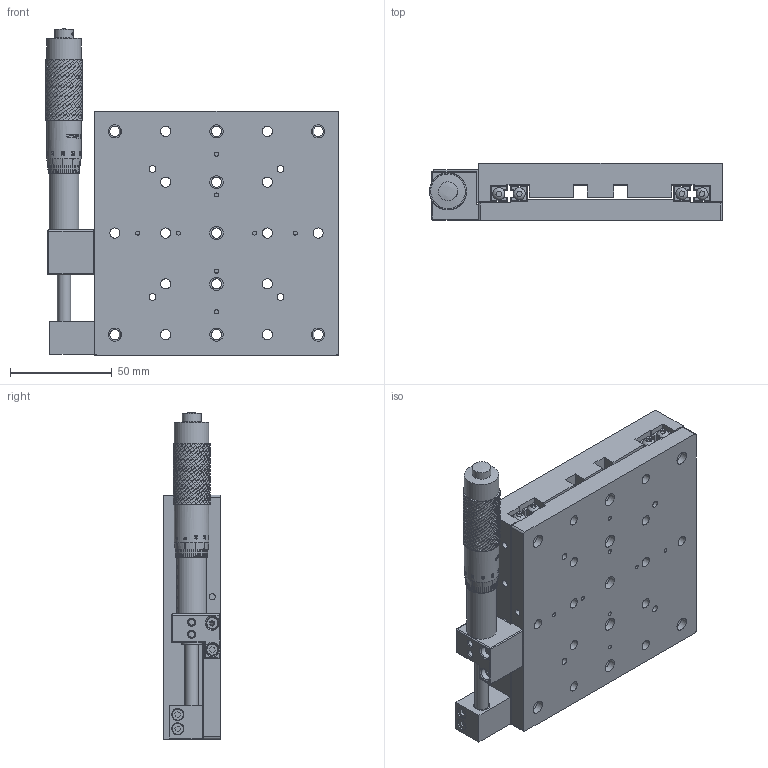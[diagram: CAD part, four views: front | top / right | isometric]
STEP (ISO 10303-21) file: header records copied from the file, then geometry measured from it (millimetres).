
FILE_DESCRIPTION (( 'STEP AP203' ), '1' );
FILE_NAME ('TSS120X-2.step', '2017-01-10T09:20:39', ( '¦K¬P' ), ( '' ), 'SwSTEP 2.0', 'SolidWorks 2012', '' );
FILE_SCHEMA (( 'CONFIG_CONTROL_DESIGN' ));
Products named in the file (1): TSS120X-2
Bounding box: 144.1 x 28 x 160.37 mm (x, y, z)
Surface area: 111132.1 mm2 (no closed solid volume)
Topology: 0 solids, 158 shells, 2212 faces, 9298 edges, 6774 vertices
Faces by surface type: cylinder 961, bspline 958, plane 259, cone 19, torus 8, sphere 7
Full cylindrical faces by diameter (mm): 1.5 x1, 2 x14, 2.5 x6, 3 x3, 3.3 x20, 5 x49, 5.4 x1, 6 x4, 6.5 x10, 8 x1, 9.3 x1, 10 x1, 11 x11, 15.2 x1, 17 x2
Entity records: 218001 total; most frequent: CARTESIAN_POINT 163937, ORIENTED_EDGE 14458, EDGE_CURVE 9113, VERTEX_POINT 6746, DIRECTION 5569, B_SPLINE_CURVE_WITH_KNOTS 3459, EDGE_LOOP 2725, FACE_OUTER_BOUND 2274
